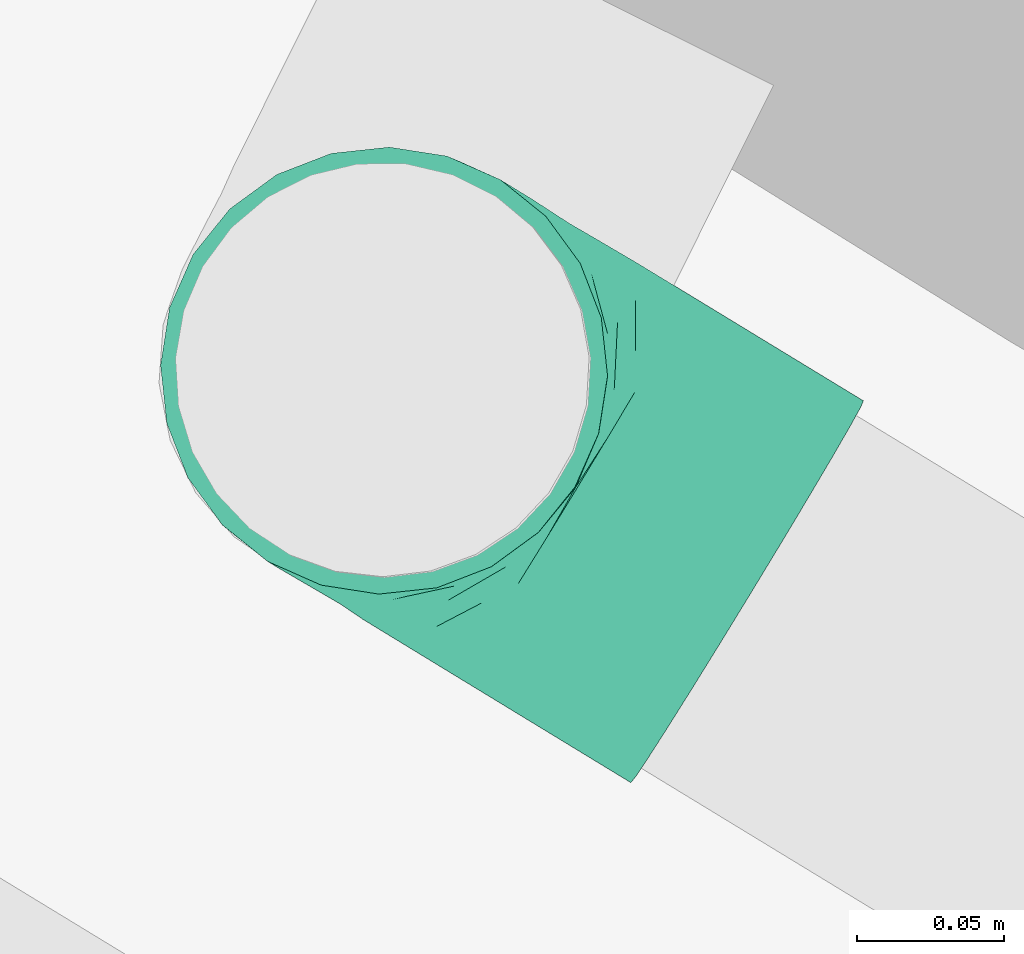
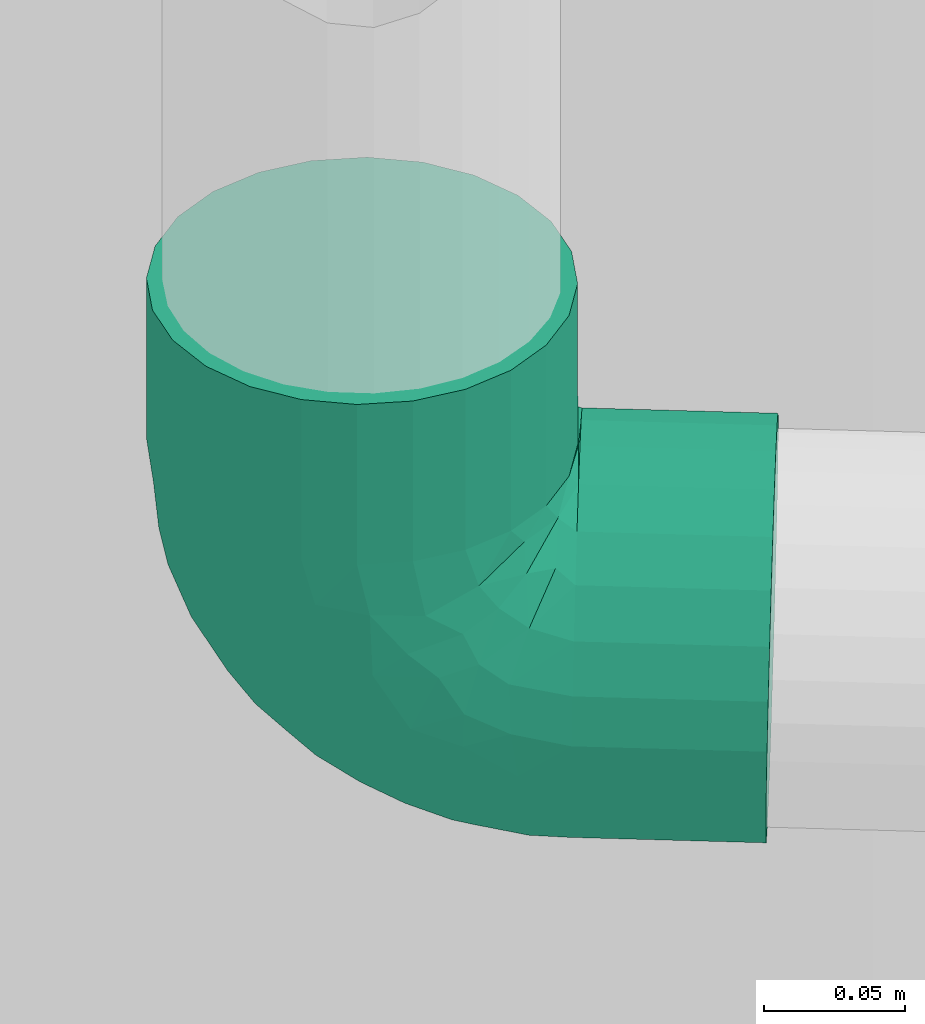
# One storey, part 43 of 47: 1 flow fitting.
"""IFC2X3 building model written with IfcOpenShell, lengths in metres."""

from ifc_helpers import new_model, entity, si_unit, converted_unit, derived_unit, direction, frame, origin, place, context, subcontext, project, spatial, faceted_brep, source, transform, mapped, type_object, type_shapes, element, save


model = new_model("IFC2X3")

# Units and contexts
model_context = context("Model", 3, precision=1e-05, world=origin(), true_north=direction((0.894925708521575, 0.446215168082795)))
context_of_model = context(None, 3, precision=1e-05, world=origin(), true_north=direction((0.894925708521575, 0.446215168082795)))
body_context = subcontext(model_context, "Body", "Model", "MODEL_VIEW")
ifc_project = project(units=[si_unit("LENGTHUNIT", "METRE"), si_unit("AREAUNIT", "SQUARE_METRE"), si_unit("VOLUMEUNIT", "CUBIC_METRE"), converted_unit("PLANEANGLEUNIT", "DEGREE", entity("IfcRatioMeasure", 0.0174532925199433), si_unit("PLANEANGLEUNIT", "RADIAN"), dimensions=[0, 0, 0, 0, 0, 0, 0]), si_unit("MASSUNIT", "GRAM", prefix="KILO"), si_unit("TIMEUNIT", "SECOND"), si_unit("FREQUENCYUNIT", "HERTZ"), si_unit("THERMODYNAMICTEMPERATUREUNIT", "DEGREE_CELSIUS"), derived_unit("THERMALTRANSMITTANCEUNIT", [(si_unit("MASSUNIT", "GRAM", prefix="KILO"), 1), (si_unit("THERMODYNAMICTEMPERATUREUNIT", "KELVIN"), -1), (si_unit("TIMEUNIT", "SECOND"), -3)]), derived_unit("VOLUMETRICFLOWRATEUNIT", [(si_unit("LENGTHUNIT", "METRE"), 3), (si_unit("TIMEUNIT", "SECOND"), -1)]), si_unit("ELECTRICCURRENTUNIT", "AMPERE"), si_unit("ELECTRICVOLTAGEUNIT", "VOLT"), si_unit("POWERUNIT", "WATT"), si_unit("FORCEUNIT", "NEWTON", prefix="KILO"), si_unit("ILLUMINANCEUNIT", "LUX"), si_unit("LUMINOUSFLUXUNIT", "LUMEN"), si_unit("LUMINOUSINTENSITYUNIT", "CANDELA"), si_unit("PRESSUREUNIT", "PASCAL")], contexts=[model_context, context_of_model])

# Site, building, storey
site_placement = place(None, frame((218.228324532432, 584.720189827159, 0.0), z_axis=(0.0, 0.0, 1.0), x_axis=(0.446215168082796, 0.894925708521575, 0.0)))
site = spatial("IfcSite", under=ifc_project, at=site_placement, Name="Default", CompositionType="ELEMENT")
building_placement = place(site_placement, origin())
building = spatial("IfcBuilding", under=site, at=building_placement, CompositionType="ELEMENT")
storey_placement = place(building_placement, frame((0.0, 0.0, 4.69)))
storey = spatial("IfcBuildingStorey", under=building, at=storey_placement, Name="1 - Piano Primo", CompositionType="ELEMENT", Elevation=4.69)

# Flow fitting
pipe_fitting_type = type_object("IfcPipeFittingType", Name="Standard", PredefinedType="NOTDEFINED")
shared_shape = source(origin(), body_context, "Body", "Brep", [
    faceted_brep([(-0.144885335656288, 0.0197274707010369, -0.073623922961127), (-0.144885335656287, 0.0, -0.0762210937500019), (-0.144885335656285, -0.0197274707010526, -0.0736239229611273), (-0.144885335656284, -0.0381105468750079, -0.0660094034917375), (-0.144885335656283, -0.0538964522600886, -0.0538964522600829), (-0.144885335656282, -0.0660094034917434, -0.0381105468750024), (-0.144885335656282, -0.0736239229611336, -0.0197274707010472), (-0.144885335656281, -0.0762210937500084, 0.0), (-0.144885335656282, -0.0736239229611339, 0.0197274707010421), (-0.144885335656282, -0.0660094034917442, 0.0381105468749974), (-0.144885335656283, -0.0538964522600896, 0.0538964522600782), (-0.144885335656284, -0.0381105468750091, 0.0660094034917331), (-0.144885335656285, -0.0197274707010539, 0.0736239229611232), (-0.144885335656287, 0.0, 0.0762210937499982), (-0.144885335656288, 0.0197274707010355, 0.0736239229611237), (-0.144885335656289, 0.0381105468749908, 0.0660094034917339), (-0.144885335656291, 0.0538964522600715, 0.0538964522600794), (-0.144885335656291, 0.0660094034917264, 0.0381105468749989), (-0.144885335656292, 0.0736239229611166, 0.0197274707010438), (-0.144885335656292, 0.0762210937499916, 0.0), (-0.144885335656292, 0.073623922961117, -0.0197274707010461), (-0.144885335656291, 0.0660094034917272, -0.0381105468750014), (-0.144885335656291, 0.0538964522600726, -0.0538964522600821), (-0.144885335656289, 0.0381105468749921, -0.0660094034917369), (-0.0756376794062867, -0.073623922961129, 0.0197274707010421), (-0.0756376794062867, -0.0660094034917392, 0.0381105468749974), (-0.0756376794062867, -0.0762210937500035, 0.0), (-0.0756376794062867, -0.0538964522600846, 0.0538964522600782), (-0.0756376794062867, -0.0381105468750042, 0.0660094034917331), (-0.0756376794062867, -0.019727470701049, 0.0736239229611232), (-0.0756376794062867, 0.0, 0.0762210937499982), (-0.0756376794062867, 0.0197274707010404, 0.0736239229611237), (-0.0756376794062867, 0.0381105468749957, 0.0660094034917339), (-0.0756376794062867, 0.0538964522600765, 0.0538964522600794), (-0.0756376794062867, 0.0660094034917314, 0.0381105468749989), (-0.0756376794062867, 0.0736239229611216, 0.0197274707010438), (-0.0756376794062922, 0.0762210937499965, 0.0), (-0.0756376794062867, 0.0736239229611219, -0.0197274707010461), (-0.0756376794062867, 0.0660094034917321, -0.0381105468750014), (-0.0756376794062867, 0.0538964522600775, -0.0538964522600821), (-0.0756376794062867, 0.038110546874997, -0.0660094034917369), (-0.0756376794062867, 0.0197274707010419, -0.073623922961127), (-0.0756376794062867, 0.0, -0.0762210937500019), (-0.0756376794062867, -0.0197274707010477, -0.0736239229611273), (-0.0756376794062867, -0.038110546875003, -0.0660094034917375), (-0.0756376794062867, -0.0538964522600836, -0.0538964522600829), (-0.0756376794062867, -0.0660094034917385, -0.0381105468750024), (-0.0756376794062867, -0.0736239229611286, -0.0197274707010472), (-0.0508413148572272, -0.0505038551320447, 0.0548821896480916), (-0.0567943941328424, -0.0737691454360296, 0.0), (-0.0520810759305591, -0.0713940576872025, 0.0210666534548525), (-0.0539445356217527, 0.00450297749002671, 0.0762095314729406), (-0.0336208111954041, -0.0548193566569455, 0.0452267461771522), (-0.0333604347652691, -0.0440931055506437, 0.0564095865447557), (-0.0364225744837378, -0.071118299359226, 0.0), (-0.0118531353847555, 0.0378244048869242, 0.0761906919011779), (-0.00354280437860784, 0.0541651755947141, 0.0762084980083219), (-0.02320987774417, 0.0535682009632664, 0.0736624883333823), (-0.0609358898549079, -0.0626710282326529, 0.0422456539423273), (0.0514128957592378, 0.049921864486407, 0.0548821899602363), (0.0554170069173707, 0.0326263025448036, 0.0452267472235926), (0.063643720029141, 0.040079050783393, 0.0361914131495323), (-0.0596844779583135, 0.0427899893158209, 0.0653356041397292), (-0.0523347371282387, 0.0241472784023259, 0.0737529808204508), (-0.0472162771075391, -0.0345502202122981, 0.0660076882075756), (-0.0569926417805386, -0.0148316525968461, 0.0743679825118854), (-0.0317758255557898, -0.0682574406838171, 0.0149797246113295), (-0.0412207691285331, -0.0629102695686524, 0.0361914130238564), (-0.0340887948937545, -0.0159411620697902, 0.0720722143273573), (-0.027589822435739, 0.00549460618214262, 0.0756703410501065), (-0.0181208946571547, -0.0636340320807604, 0.0), (0.00015650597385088, -0.0528793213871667, 0.0206323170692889), (0.0132756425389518, -0.0439136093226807, 0.0216466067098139), (-0.000871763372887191, -0.0475325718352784, 0.0339342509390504), (-0.0372704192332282, 0.0177285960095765, 0.0759521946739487), (-0.0367397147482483, 0.0763129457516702, 0.0660094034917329), (-0.0417078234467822, 0.0605571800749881, 0.0653056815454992), (-0.0687825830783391, 0.0700349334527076, 0.0359105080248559), (-0.0187032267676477, -0.0316650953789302, 0.0610198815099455), (-0.0750814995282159, 0.0764485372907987, 0.0), (-0.0685188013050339, 0.0585265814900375, 0.0503728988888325), (0.0210888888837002, 0.0752694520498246, 0.0736239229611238), (0.0158574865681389, 0.0567157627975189, 0.0743679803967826), (0.0353964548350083, 0.0465852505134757, 0.0660076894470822), (-0.0722473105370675, 0.076953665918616, 0.0197274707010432), (-0.0183596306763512, 0.0759812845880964, 0.0736239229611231), (-0.00258204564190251, -0.0401532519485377, 0.0456176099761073), (-0.0169551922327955, -0.0479733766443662, 0.0456166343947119), (-0.0432909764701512, 0.0373099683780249, 0.07172117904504), (-0.0141609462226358, -0.00762373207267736, 0.0710507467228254), (0.0601642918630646, 0.0135016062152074, 0.0222361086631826), (0.0688196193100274, 0.0305391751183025, 0.0149797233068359), (0.039468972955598, 0.0749377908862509, 0.0660094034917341), (0.055252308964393, 0.0746529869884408, 0.0538964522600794), (0.063760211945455, 0.0597952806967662, 0.0422456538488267), (0.0673632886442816, 0.0744344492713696, 0.0381105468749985), (0.0319973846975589, 0.0181289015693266, 0.0610198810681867), (0.0165535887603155, 0.0337956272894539, 0.0720722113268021), (0.0723220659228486, 0.0507845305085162, 0.0210666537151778), (0.0749765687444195, 0.0742970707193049, 0.0197274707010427), (-0.0270778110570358, 0.0287448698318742, 0.075740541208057), (0.0747818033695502, 0.0554542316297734, 0.0), (-0.0525230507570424, 0.0765977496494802, 0.0538964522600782), (-0.00623192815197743, -0.0195049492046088, 0.0636921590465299), (0.0104483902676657, -0.030404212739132, 0.04617455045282), (0.00951526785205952, -0.018667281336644, 0.0565805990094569), (-0.0583035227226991, 0.0593650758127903, 0.0554691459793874), (-0.05728086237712, 0.069563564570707, 0.0503728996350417), (-0.0313172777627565, 0.0430249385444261, 0.0732246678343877), (-0.0500482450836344, 0.0497580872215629, 0.0651095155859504), (-0.0748440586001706, 0.0770005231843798, 0.0), (0.0499967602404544, -0.00698342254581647, 0.0178008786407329), (0.0561373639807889, -0.00119379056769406, 0.0), (0.00136462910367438, 0.0756253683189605, 0.0762210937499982), (-0.00417490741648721, 0.0187319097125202, 0.0746898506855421), (-0.0646340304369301, 0.0768162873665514, 0.0381105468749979), (0.0482714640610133, 0.0160869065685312, 0.0456166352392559), (0.0447816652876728, 0.0326850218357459, 0.0563690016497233), (0.000180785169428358, -0.0561497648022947, 0.0), (-0.0145848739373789, -0.0599109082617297, 0.0222361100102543), (0.0717638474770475, 0.0351335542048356, 0.0), (0.0639506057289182, 0.0169698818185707, 0.0), (0.00262547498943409, 0.0372905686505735, 0.0754588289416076), (0.0159576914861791, -0.0442310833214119, 0.0), (0.0380204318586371, -0.0238247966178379, 0.0139773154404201), (0.0264916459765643, -0.031787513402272, 0.0243972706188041), (0.0317345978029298, -0.032312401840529, 0.0), (0.0149303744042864, -0.0365991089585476, 0.0338739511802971), (0.0368756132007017, -0.0176305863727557, 0.0301317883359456), (0.0336635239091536, -0.00376227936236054, 0.0483832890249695), (0.0468361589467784, -0.00084180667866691, 0.0342133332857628), (0.0158822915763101, 0.0125071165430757, 0.0677335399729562), (0.0058769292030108, -0.00598394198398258, 0.0652971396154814), (0.0217064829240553, -0.00148037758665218, 0.0591804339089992), (0.022885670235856, -0.0179043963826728, 0.0472694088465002), (0.0775733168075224, 0.0742502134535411, 0.0), (0.0439359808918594, -0.0167530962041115, 0.0), (-0.0531407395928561, 0.0241725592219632, -0.0736624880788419), (-0.000871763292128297, -0.0475325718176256, -0.0339342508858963), (0.000156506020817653, -0.0528793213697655, -0.020632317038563), (-0.0145848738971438, -0.0599109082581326, -0.0222361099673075), (-0.0569926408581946, -0.0148316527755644, -0.0743679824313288), (0.0319973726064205, 0.0181288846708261, -0.0610198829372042), (0.048271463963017, 0.0160869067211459, -0.0456166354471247), (0.0336635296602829, -0.00376227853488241, -0.0483832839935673), (-0.054092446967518, 0.00451945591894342, -0.0762084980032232), (-0.0187032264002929, -0.0316650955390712, -0.0610198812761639), (-0.0169551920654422, -0.0479733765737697, -0.0456166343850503), (-0.0334876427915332, -0.0441846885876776, -0.0563689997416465), (-0.068782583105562, 0.0700349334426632, -0.035910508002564), (-0.0722473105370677, 0.076953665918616, -0.019727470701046), (0.0165535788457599, 0.0337956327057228, -0.0720722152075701), (0.0353964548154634, 0.0465852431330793, -0.0660076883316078), (-0.0685188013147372, 0.0585265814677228, -0.0503728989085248), (-0.0183596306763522, 0.0759812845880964, -0.0736239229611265), (-0.0231991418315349, 0.0527618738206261, -0.0737529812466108), (-0.0367397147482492, 0.0763129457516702, -0.0660094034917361), (-0.0583035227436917, 0.059365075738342, -0.0554691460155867), (-0.00499595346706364, 0.0276844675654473, -0.0756703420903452), (-0.0282516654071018, 0.0275920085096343, -0.075740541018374), (-0.0170532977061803, 0.0375842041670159, -0.0759521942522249), (-0.0336208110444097, -0.0548193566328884, -0.0452267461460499), (-0.0412207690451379, -0.0629102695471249, -0.0361914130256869), (-0.0186535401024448, 0.00451218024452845, -0.0746898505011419), (-0.0520810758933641, -0.0713940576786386, -0.0210666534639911), (-0.059794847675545, 0.0427935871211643, -0.065305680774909), (-0.00352899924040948, 0.0540169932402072, -0.0762095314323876), (-0.0508413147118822, -0.0505038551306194, -0.0548821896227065), (-0.0472162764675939, -0.0345502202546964, -0.0660076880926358), (-0.0317758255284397, -0.0682574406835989, -0.0149797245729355), (-0.0376044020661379, 0.0125336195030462, -0.0761906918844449), (-0.0609358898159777, -0.0626710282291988, -0.0422456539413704), (0.00136462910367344, 0.0756253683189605, -0.0762210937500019), (0.0688196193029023, 0.030539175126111, -0.0149797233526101), (0.0394689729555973, 0.0749377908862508, -0.0660094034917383), (0.0552523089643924, 0.0746529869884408, -0.0538964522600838), (0.0514128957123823, 0.0499218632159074, -0.0548821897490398), (0.0158574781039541, 0.0567157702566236, -0.0743679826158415), (0.0749765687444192, 0.0742970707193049, -0.0197274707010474), (0.0723220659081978, 0.0507845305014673, -0.021066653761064), (0.0673632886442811, 0.0744344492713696, -0.0381105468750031), (-0.0340887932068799, -0.0159411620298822, -0.0720722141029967), (-0.0646340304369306, 0.0768162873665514, -0.0381105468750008), (-0.052523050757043, 0.0765977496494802, -0.0538964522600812), (-0.0572808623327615, 0.0695635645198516, -0.050372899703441), (0.0499967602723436, -0.00698342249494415, -0.017800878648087), (0.0380204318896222, -0.0238247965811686, -0.013977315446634), (-0.0417062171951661, 0.0604467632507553, -0.0653356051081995), (0.0210888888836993, 0.0752694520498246, -0.0736239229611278), (0.0368756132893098, -0.017630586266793, -0.0301317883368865), (0.0264916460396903, -0.0317875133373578, -0.024397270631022), (0.0636437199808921, 0.0400790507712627, -0.0361914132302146), (0.0637602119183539, 0.0597952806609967, -0.0422456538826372), (-0.0365228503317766, 0.0439570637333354, -0.0717211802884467), (0.0446878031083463, 0.0325594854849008, -0.0564095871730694), (-0.0424529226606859, 0.032088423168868, -0.0732246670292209), (-0.0488470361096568, 0.0509378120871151, -0.0651095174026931), (0.0554170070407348, 0.032626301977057, -0.0452267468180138), (0.0601642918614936, 0.0135016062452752, -0.0222361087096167), (-0.0373318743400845, -0.00195226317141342, -0.075458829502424), (0.0132756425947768, -0.0439136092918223, -0.0216466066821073), (-0.00258204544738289, -0.0401532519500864, -0.0456176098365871), (0.00134270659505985, -0.0223994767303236, -0.0586177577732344), (0.0149303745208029, -0.0365991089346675, -0.0338739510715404), (0.046836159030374, -0.000841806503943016, -0.0342133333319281), (-0.012791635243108, -0.0156540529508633, -0.0677335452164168), (0.0196141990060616, 0.00587901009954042, -0.0636921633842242), (0.018347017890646, -0.0125969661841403, -0.0549284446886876), (0.0260287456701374, -0.0197157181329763, -0.0424344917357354), (0.0078779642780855, 0.0140210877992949, -0.0710507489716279), (0.00587693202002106, -0.00598394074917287, -0.0652971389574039), (0.0104483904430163, -0.0304042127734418, -0.0461745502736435), (0.00261397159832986, 0.144861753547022, -0.0762210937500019), (-0.0171102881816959, 0.145217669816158, -0.0736239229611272), (-0.0354903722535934, 0.145549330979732, -0.0660094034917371), (-0.0512737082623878, 0.145834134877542, -0.0538964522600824), (-0.0633846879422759, 0.146052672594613, -0.0381105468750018), (-0.0709979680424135, 0.146190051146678, -0.0197274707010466), (-0.0735947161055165, 0.146236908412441, 0.0), (-0.0709979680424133, 0.146190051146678, 0.0197274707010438), (-0.0633846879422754, 0.146052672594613, 0.0381105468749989), (-0.0512737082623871, 0.145834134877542, 0.0538964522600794), (-0.0354903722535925, 0.145549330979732, 0.0660094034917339), (-0.017110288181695, 0.145217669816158, 0.0736239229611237), (0.00261397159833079, 0.144861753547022, 0.0762210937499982), (0.0223382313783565, 0.144505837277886, 0.0736239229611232), (0.0407183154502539, 0.144174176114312, 0.0660094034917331), (0.0565016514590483, 0.143889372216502, 0.0538964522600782), (0.0686126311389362, 0.143670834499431, 0.0381105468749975), (0.0762259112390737, 0.143533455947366, 0.0197274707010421), (0.0788226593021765, 0.143486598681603, 0.0), (0.0762259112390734, 0.143533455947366, -0.0197274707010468), (0.0686126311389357, 0.143670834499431, -0.038110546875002), (0.0565016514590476, 0.143889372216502, -0.0538964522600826), (0.0407183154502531, 0.144174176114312, -0.0660094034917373), (0.0223382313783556, 0.144505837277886, -0.0736239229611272)], [[[0, 1, 2, 3, 4, 5, 6, 7, 8, 9, 10, 11, 12, 13, 14, 15, 16, 17, 18, 19, 20, 21, 22, 23]], [[24, 25, 9, 8]], [[26, 24, 8, 7]], [[11, 10, 27, 28]], [[25, 27, 10, 9]], [[29, 12, 11, 28]], [[29, 30, 13, 12]], [[15, 14, 31, 32]], [[33, 16, 15, 32]], [[18, 17, 34, 35]], [[33, 34, 17, 16]], [[19, 18, 35, 36]], [[31, 14, 13, 30]], [[20, 19, 36, 37]], [[38, 21, 20, 37]], [[23, 22, 39, 40]], [[38, 39, 22, 21]], [[0, 23, 40, 41]], [[41, 42, 1, 0]], [[3, 2, 43, 44]], [[45, 4, 3, 44]], [[6, 5, 46, 47]], [[45, 46, 5, 4]], [[7, 6, 47, 26]], [[43, 2, 1, 42]], [[28, 27, 48]], [[49, 50, 24]], [[31, 30, 51]], [[52, 53, 48]], [[54, 50, 49]], [[55, 56, 57]], [[58, 27, 25]], [[59, 60, 61]], [[62, 32, 63]], [[28, 48, 64]], [[65, 30, 29]], [[50, 66, 67]], [[51, 68, 69]], [[70, 66, 54]], [[71, 72, 73]], [[51, 69, 74]], [[64, 68, 65]], [[32, 62, 33]], [[63, 31, 51]], [[75, 76, 57]], [[29, 28, 64]], [[34, 77, 35]], [[64, 53, 78]], [[79, 36, 35]], [[33, 80, 34]], [[81, 82, 83]], [[84, 79, 35]], [[85, 57, 56]], [[86, 78, 87]], [[63, 74, 88]], [[24, 50, 25]], [[68, 89, 69]], [[61, 90, 91]], [[92, 59, 93]], [[93, 94, 95]], [[92, 81, 83]], [[96, 83, 97]], [[98, 99, 95]], [[69, 100, 74]], [[83, 59, 92]], [[60, 90, 61]], [[98, 101, 99]], [[75, 102, 76]], [[103, 104, 105]], [[62, 63, 88]], [[77, 106, 107]], [[65, 51, 30]], [[35, 77, 84]], [[108, 76, 109]], [[110, 79, 84]], [[90, 111, 112]], [[56, 113, 85]], [[31, 63, 32]], [[100, 69, 114]], [[78, 68, 64]], [[102, 115, 107]], [[85, 75, 57]], [[96, 116, 117]], [[118, 119, 70]], [[113, 82, 81]], [[58, 50, 67]], [[80, 62, 106]], [[94, 98, 95]], [[120, 91, 121]], [[107, 76, 102]], [[109, 62, 88]], [[57, 108, 55]], [[56, 122, 82]], [[117, 59, 83]], [[94, 59, 61]], [[58, 48, 27]], [[52, 48, 67]], [[77, 34, 80]], [[115, 84, 77]], [[66, 50, 54]], [[123, 71, 118]], [[52, 119, 87]], [[124, 125, 126]], [[73, 72, 127]], [[124, 111, 128]], [[116, 96, 129]], [[121, 90, 112]], [[98, 91, 120]], [[111, 130, 128]], [[97, 131, 96]], [[103, 105, 132]], [[104, 86, 127]], [[89, 103, 132]], [[125, 127, 72]], [[130, 129, 128]], [[96, 131, 133]], [[129, 133, 134]], [[70, 119, 66]], [[67, 66, 119]], [[61, 91, 98]], [[90, 121, 91]], [[24, 26, 49]], [[101, 98, 120]], [[101, 135, 99]], [[132, 131, 114]], [[114, 69, 89]], [[55, 122, 56]], [[56, 82, 113]], [[83, 82, 97]], [[64, 65, 29]], [[51, 65, 68]], [[130, 90, 116]], [[111, 124, 136]], [[136, 124, 126]], [[136, 112, 111]], [[125, 124, 128]], [[134, 127, 125]], [[125, 72, 126]], [[134, 125, 128]], [[73, 86, 87]], [[87, 119, 73]], [[71, 73, 119]], [[119, 118, 71]], [[123, 126, 72]], [[90, 130, 111]], [[129, 130, 116]], [[108, 88, 100]], [[62, 109, 106]], [[108, 109, 88]], [[76, 106, 109]], [[127, 86, 73]], [[86, 104, 103]], [[100, 114, 55]], [[122, 114, 97]], [[114, 122, 55]], [[82, 122, 97]], [[103, 68, 78]], [[114, 89, 132]], [[68, 103, 89]], [[103, 78, 86]], [[134, 105, 104]], [[105, 134, 133]], [[127, 134, 104]], [[128, 129, 134]], [[55, 108, 100]], [[76, 108, 57]], [[77, 107, 115]], [[76, 107, 106]], [[62, 80, 33]], [[77, 80, 106]], [[50, 58, 25]], [[48, 58, 67]], [[59, 94, 93]], [[98, 94, 61]], [[96, 117, 83]], [[60, 117, 116]], [[117, 60, 59]], [[90, 60, 116]], [[119, 52, 67]], [[53, 52, 87]], [[78, 53, 87]], [[48, 53, 64]], [[71, 123, 72]], [[114, 131, 97]], [[133, 131, 132]], [[105, 133, 132]], [[96, 133, 129]], [[88, 74, 100]], [[51, 74, 63]], [[41, 40, 137]], [[138, 139, 140]], [[43, 42, 141]], [[142, 143, 144]], [[42, 41, 145]], [[146, 147, 148]], [[149, 37, 150]], [[142, 151, 152]], [[38, 153, 39]], [[154, 155, 156]], [[157, 153, 149]], [[158, 159, 160]], [[161, 140, 162]], [[163, 159, 158]], [[46, 164, 47]], [[40, 39, 165]], [[164, 49, 47]], [[166, 151, 158]], [[167, 44, 168]], [[167, 161, 162]], [[140, 169, 162]], [[44, 43, 168]], [[170, 145, 137]], [[171, 46, 45]], [[154, 172, 166]], [[45, 44, 167]], [[121, 173, 120]], [[174, 175, 176]], [[37, 36, 79]], [[54, 169, 70]], [[79, 110, 150]], [[177, 166, 172]], [[38, 37, 149]], [[178, 179, 180]], [[146, 168, 181]], [[182, 183, 184]], [[155, 154, 166]], [[185, 136, 186]], [[158, 160, 166]], [[152, 151, 177]], [[165, 137, 40]], [[187, 183, 156]], [[188, 174, 152]], [[188, 177, 172]], [[189, 186, 190]], [[43, 141, 168]], [[178, 135, 101]], [[173, 191, 179]], [[192, 175, 180]], [[174, 176, 152]], [[179, 178, 101]], [[187, 155, 193]], [[179, 101, 120]], [[152, 194, 142]], [[195, 165, 196]], [[197, 194, 176]], [[41, 137, 145]], [[187, 156, 155]], [[184, 187, 157]], [[150, 37, 79]], [[171, 164, 46]], [[155, 160, 193]], [[112, 198, 121]], [[192, 179, 191]], [[153, 165, 39]], [[196, 187, 193]], [[137, 195, 170]], [[145, 199, 141]], [[148, 167, 168]], [[171, 167, 162]], [[192, 176, 175]], [[197, 176, 191]], [[150, 182, 149]], [[149, 182, 184]], [[70, 140, 118]], [[164, 169, 54]], [[190, 126, 200]], [[201, 138, 147]], [[202, 201, 146]], [[203, 138, 201]], [[198, 185, 204]], [[173, 179, 120]], [[185, 198, 112]], [[197, 198, 143]], [[181, 205, 146]], [[206, 144, 207]], [[146, 205, 202]], [[208, 190, 203]], [[143, 204, 144]], [[209, 206, 210]], [[207, 144, 208]], [[211, 202, 207]], [[162, 169, 164]], [[140, 70, 169]], [[121, 198, 173]], [[191, 173, 198]], [[49, 164, 54]], [[49, 26, 47]], [[151, 209, 158]], [[210, 205, 163]], [[163, 158, 209]], [[170, 199, 145]], [[145, 141, 42]], [[168, 141, 181]], [[152, 177, 188]], [[166, 177, 151]], [[136, 126, 186]], [[204, 185, 189]], [[185, 112, 136]], [[123, 118, 139]], [[185, 186, 189]], [[126, 190, 186]], [[203, 190, 200]], [[203, 200, 138]], [[203, 211, 208]], [[139, 138, 200]], [[140, 147, 138]], [[139, 200, 123]], [[118, 140, 139]], [[144, 204, 189]], [[198, 204, 143]], [[195, 193, 159]], [[187, 196, 157]], [[195, 196, 193]], [[165, 157, 196]], [[146, 201, 147]], [[203, 201, 211]], [[159, 163, 170]], [[199, 163, 181]], [[163, 199, 170]], [[141, 199, 181]], [[206, 151, 142]], [[163, 209, 210]], [[151, 206, 209]], [[144, 206, 142]], [[170, 195, 159]], [[165, 195, 137]], [[149, 153, 38]], [[165, 153, 157]], [[187, 184, 183]], [[149, 184, 157]], [[167, 171, 45]], [[164, 171, 162]], [[179, 192, 180]], [[176, 192, 191]], [[146, 148, 168]], [[161, 148, 147]], [[148, 161, 167]], [[140, 161, 147]], [[198, 197, 191]], [[194, 197, 143]], [[142, 194, 143]], [[176, 194, 152]], [[200, 126, 123]], [[163, 205, 181]], [[202, 205, 210]], [[207, 202, 210]], [[202, 211, 201]], [[206, 207, 210]], [[144, 189, 208]], [[208, 189, 190]], [[211, 207, 208]], [[193, 160, 159]], [[166, 160, 155]], [[212, 213, 214, 215, 216, 217, 218, 219, 220, 221, 222, 223, 224, 225, 226, 227, 228, 229, 230, 231, 232, 233, 234, 235]], [[229, 228, 95, 99]], [[230, 229, 99, 135]], [[92, 93, 227, 226]], [[228, 227, 93, 95]], [[225, 81, 92, 226]], [[225, 224, 113, 81]], [[75, 85, 223, 222]], [[221, 102, 75, 222]], [[84, 115, 220, 219]], [[221, 220, 115, 102]], [[110, 84, 219, 218]], [[223, 85, 113, 224]], [[217, 150, 110, 218]], [[216, 182, 150, 217]], [[214, 213, 154, 156]], [[216, 215, 183, 182]], [[215, 214, 156, 183]], [[154, 213, 212, 172]], [[174, 188, 235, 234]], [[233, 175, 174, 234]], [[178, 180, 232, 231]], [[233, 232, 180, 175]], [[135, 178, 231, 230]], [[235, 188, 172, 212]]]),
])
type_shapes(pipe_fitting_type, [shared_shape])
flow_fitting_placement = place(storey_placement, frame((66.8551952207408, -2.52452212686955, 3.43371581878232), z_axis=(0.99643011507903, -0.0844217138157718, 0.0), x_axis=(0.0844088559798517, 0.996278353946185, 0.0174524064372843)))
element("IfcFlowFitting", 1, at=flow_fitting_placement, inside=storey, type_object=pipe_fitting_type, Name="M_Gomito - PVC - Sch 40:Standard", ObjectType="Standard", context=body_context, shape_type="MappedRepresentation", body=[
    mapped(shared_shape, transform((0.0, 0.0, 0.0), scale=1.0)),
])

save(model, "model.ifc")
